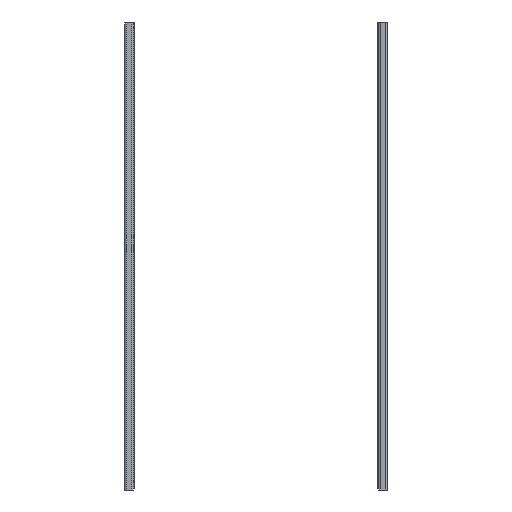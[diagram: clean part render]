
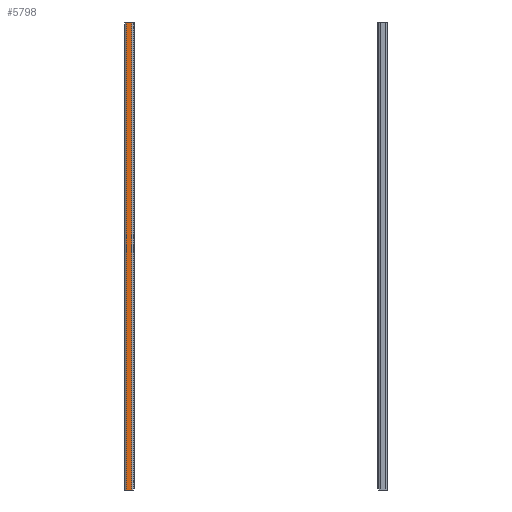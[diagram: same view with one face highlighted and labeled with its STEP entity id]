
A CAD part, front view. The second image highlights one B-rep face of the part: STEP entity #5798.
In plain terms, the highlighted planar face has unit normal (0, -1, 0).
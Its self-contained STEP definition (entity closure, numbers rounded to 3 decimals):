
#670=LINE('',#8861,#1187);
#860=LINE('',#9371,#1377);
#861=LINE('',#9374,#1378);
#862=LINE('',#9375,#1379);
#1187=VECTOR('',#7092,10.);
#1377=VECTOR('',#7670,10.);
#1378=VECTOR('',#7673,10.);
#1379=VECTOR('',#7674,10.);
#1648=PLANE('',#6405);
#1867=FACE_OUTER_BOUND('',#2196,.T.);
#2196=EDGE_LOOP('',(#4996,#4997,#4998,#4999));
#2849=VERTEX_POINT('',#8858);
#2850=VERTEX_POINT('',#8860);
#2976=VERTEX_POINT('',#9369);
#2977=VERTEX_POINT('',#9373);
#3431=EDGE_CURVE('',#2849,#2850,#670,.T.);
#3687=EDGE_CURVE('',#2976,#2849,#860,.T.);
#3688=EDGE_CURVE('',#2976,#2977,#861,.T.);
#3689=EDGE_CURVE('',#2850,#2977,#862,.T.);
#4996=ORIENTED_EDGE('',*,*,#3687,.F.);
#4997=ORIENTED_EDGE('',*,*,#3688,.T.);
#4998=ORIENTED_EDGE('',*,*,#3689,.F.);
#4999=ORIENTED_EDGE('',*,*,#3431,.F.);
#5798=ADVANCED_FACE('',(#1867),#1648,.T.);
#6405=AXIS2_PLACEMENT_3D('',#9372,#7671,#7672);
#7092=DIRECTION('',(-1.,0.,0.));
#7670=DIRECTION('',(0.,0.,-1.));
#7671=DIRECTION('center_axis',(0.,-1.,0.));
#7672=DIRECTION('ref_axis',(-1.,0.,0.));
#7673=DIRECTION('',(-1.,0.,0.));
#7674=DIRECTION('',(0.,0.,1.));
#8858=CARTESIAN_POINT('',(9.6,-22.25,-650.));
#8860=CARTESIAN_POINT('',(2.,-22.25,-650.));
#8861=CARTESIAN_POINT('',(11.6,-22.25,-650.));
#9369=CARTESIAN_POINT('',(9.6,-22.25,0.));
#9371=CARTESIAN_POINT('',(9.6,-22.25,0.));
#9372=CARTESIAN_POINT('Origin',(11.6,-22.25,0.));
#9373=CARTESIAN_POINT('',(2.,-22.25,0.));
#9374=CARTESIAN_POINT('',(11.6,-22.25,0.));
#9375=CARTESIAN_POINT('',(2.,-22.25,0.));
